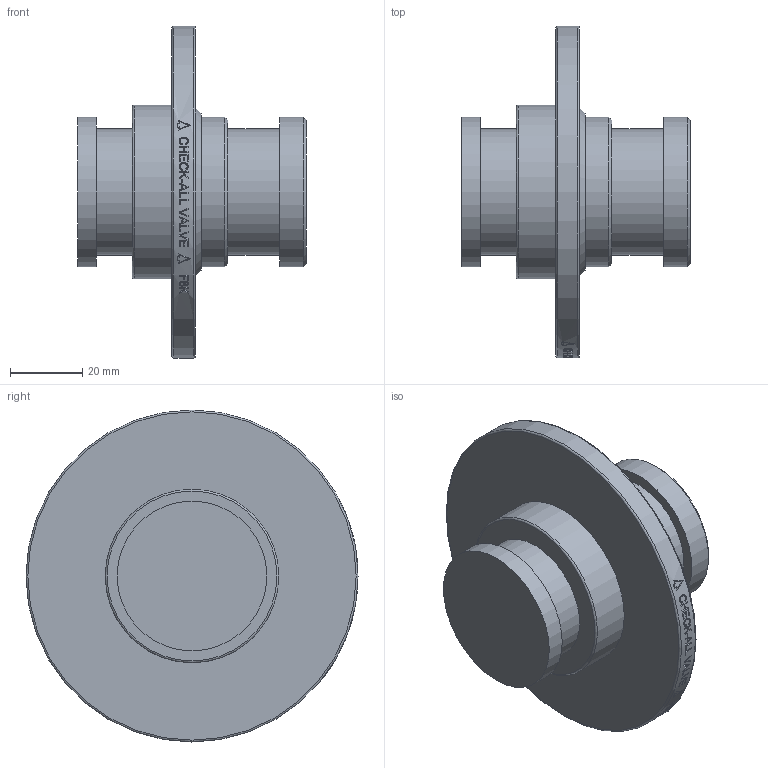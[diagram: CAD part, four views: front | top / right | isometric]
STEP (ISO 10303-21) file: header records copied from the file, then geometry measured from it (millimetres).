
FILE_DESCRIPTION( ( 'Unknown' ), '1' );
FILE_NAME( 'Y:/ENGR/3D Solid Edge Models/F6/F6 STEP/F6K.stp', 'Unknown', ( 'Unknown' ), ( 'Unknown' ), 'PSStep 14.0', 'Unknown', ' ' );
FILE_SCHEMA( ( 'AUTOMOTIVE_DESIGN { 1 0 10303 214 1 1 1 1 }' ) );
Length unit declared in the file: millimetre
Products named in the file (1): 1
Bounding box: 63.32 x 92.08 x 92.08 mm (x, y, z)
Volume: 115998.5 mm3; surface area: 23802.7 mm2
Topology: 1 solids, 1 shells, 214 faces, 538 edges, 357 vertices
Faces by surface type: plane 127, bspline 50, cylinder 31, torus 3, cone 3
Full cylindrical faces by diameter (mm): 35.179 x2, 41.402 x2, 41.529 x1, 48.133 x1, 92.075 x1
Entity records: 9543 total; most frequent: CARTESIAN_POINT 3854, ORIENTED_EDGE 1048, EDGE_CURVE 524, B_SPLINE_CURVE_WITH_KNOTS 503, DIRECTION 372, VERTEX_POINT 357, EDGE_LOOP 259, FACE_OUTER_BOUND 225
